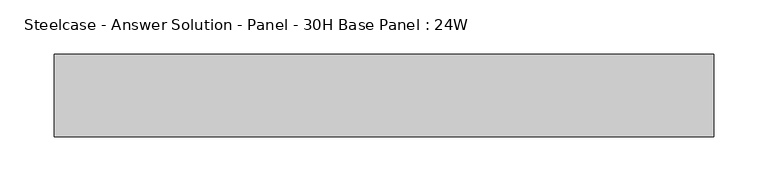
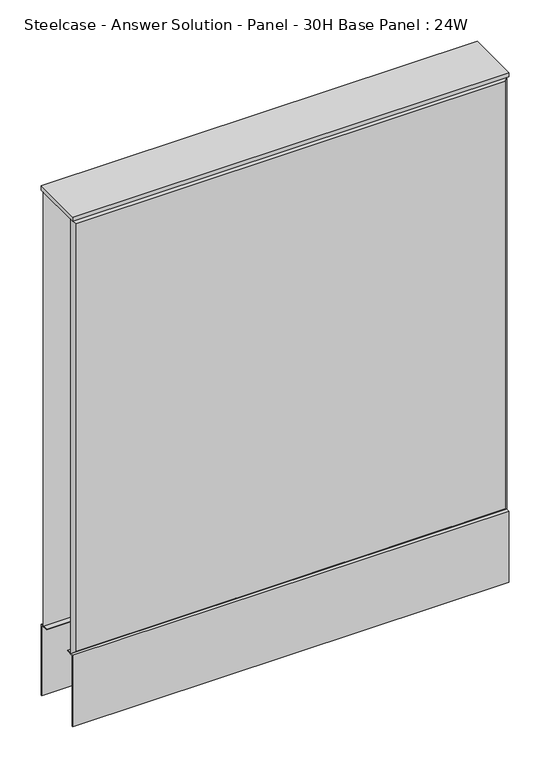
"""IFC4 building model written with IfcOpenShell, lengths in millimetres: furniture geometry, Steelcase - Answer Solution - Panel - 30H Base Panel : 24W."""

from ifc_helpers import new_model, si_unit, frame, origin, place, context, project, spatial, polyline, outline, extrude, faceted_brep, source, transform, mapped, element, save


def steelcase_answer_solution_panel_30h_base_panel_24w_d5bf8941(model_context):
    return source(origin(), model_context, "Body", "SolidModel", [
        faceted_brep([(299.974, 38.1635011, 757.174), (299.974, 38.1635011, 125.476), (-299.974, 38.1635011, 125.476), (-299.974, 38.1635011, 757.174), (304.8, 33.3375011, 762.0), (-304.8, 33.3375011, 762.0), (-304.8, 33.3375011, 120.65), (304.8, 33.3375011, 120.65)], [[[0, 1, 2, 3]], [[4, 5, 6, 7]], [[4, 0, 3, 5]], [[5, 3, 2, 6]], [[6, 2, 1, 7]], [[7, 1, 0, 4]]]),
        faceted_brep([(299.974, -38.1635011, 757.174), (-299.974, -38.1635011, 757.174), (-299.974, -38.1635011, 125.476), (299.974, -38.1635011, 125.476), (304.8, -33.3375011, 762.0), (304.8, -33.3375011, 120.65), (-304.8, -33.3375011, 120.65), (-304.8, -33.3375011, 762.0)], [[[0, 1, 2, 3]], [[4, 5, 6, 7]], [[4, 7, 1, 0]], [[7, 6, 2, 1]], [[6, 5, 3, 2]], [[5, 4, 0, 3]]]),
        extrude(outline(polyline([(304.8, 38.1000194), (304.8, -38.1000194), (-304.8, -38.1000194), (-304.8, 38.1000194), (304.8, 38.1000194)])), frame((0.0, 0.0, 762.0), z_axis=(0.0, 0.0, 1.0), x_axis=(1.0, 0.0, 0.0)), (0.0, 0.0, 1.0), 6.35),
        extrude(outline(polyline([(37.3075215, 119.8575157), (25.4000011, 119.8575157), (25.4000011, 120.65), (38.1000194, 120.65), (38.1000194, 15.494), (37.3075215, 15.494), (37.3075215, 119.8575157)])), frame((-304.8, 0.0, 0.0), z_axis=(1.0, 0.0, 0.0), x_axis=(0.0, 1.0, 0.0)), (0.0, 0.0, 1.0), 609.6),
        extrude(outline(polyline([(-37.3075215, 119.8575157), (-37.3075215, 15.494), (-38.1000194, 15.494), (-38.1000194, 120.65), (-25.4000011, 120.65), (-25.4000011, 119.8575157), (-37.3075215, 119.8575157)])), frame((-304.8, 0.0, 0.0), z_axis=(1.0, 0.0, 0.0), x_axis=(0.0, 1.0, 0.0)), (0.0, 0.0, 1.0), 609.6),
    ])


if __name__ == "__main__":
    model = new_model("IFC4")
    model_context = context("Model", 3, world=origin())
    ifc_project = project(units=[si_unit("LENGTHUNIT", "METRE", prefix="MILLI")], contexts=[model_context])
    site = spatial("IfcSite", under=ifc_project)
    building = spatial("IfcBuilding", under=site)
    placement = place(None, origin())
    steelcase_answer_solution_panel_30h_base_panel_24w_shape = steelcase_answer_solution_panel_30h_base_panel_24w_d5bf8941(model_context)
    element("IfcFurniture", 1, ObjectType="Steelcase - Answer Solution - Panel - 30H Base Panel : 24W", at=placement, inside=building, context=model_context, shape_type="MappedRepresentation", body=[
        mapped(steelcase_answer_solution_panel_30h_base_panel_24w_shape, transform((0.0, 0.0, 0.0), x_axis=(1.0, 0.0, 0.0), y_axis=(0.0, 1.0, 0.0), z_axis=(0.0, 0.0, 1.0))),
    ])
    save(model, "model.ifc")
